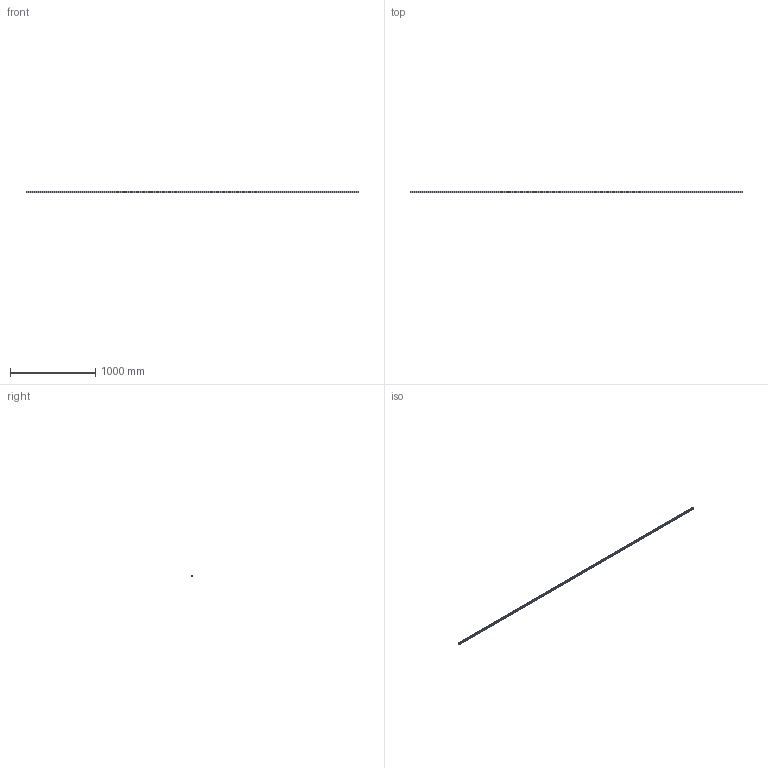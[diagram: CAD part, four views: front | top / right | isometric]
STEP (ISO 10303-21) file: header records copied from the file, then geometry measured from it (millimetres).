
FILE_DESCRIPTION (( 'STEP AP203' ), '1' );
FILE_NAME ('L1018.20R-3900.step', '2023-08-06T09:20:04', ( '' ), ( '' ), 'SwSTEP 2.0', 'SolidWorks 2019', '' );
FILE_SCHEMA (( 'CONFIG_CONTROL_DESIGN' ));
Length unit declared in the file: millimetre
Products named in the file (1): L1018.20R-3900
Bounding box: 3900 x 19.3 x 20 mm (x, y, z)
Volume: 1236800.3 mm3; surface area: 329780.3 mm2
Topology: 1 solids, 1 shells, 614 faces, 1381 edges, 769 vertices
Faces by surface type: cylinder 263, cone 260, plane 91
Entity records: 16208 total; most frequent: DIRECTION 3137, CARTESIAN_POINT 2635, ORIENTED_EDGE 2502, AXIS2_PLACEMENT_3D 1271, EDGE_CURVE 1251, VERTEX_POINT 769, EDGE_LOOP 744, CIRCLE 656
